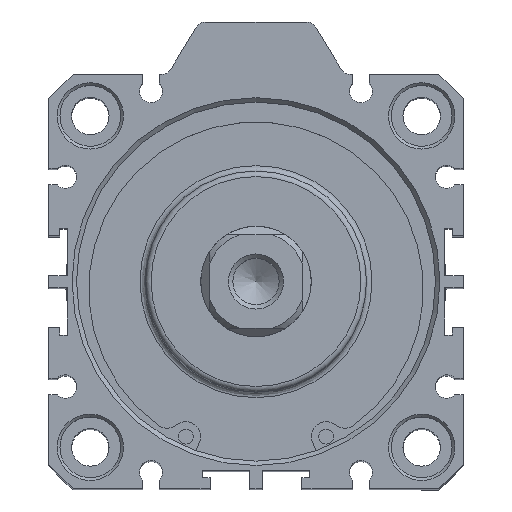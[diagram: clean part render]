
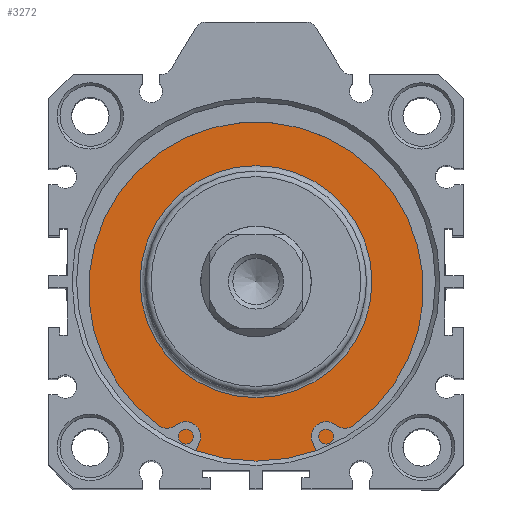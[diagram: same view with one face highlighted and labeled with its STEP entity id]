
A CAD part, top view. The second image highlights one B-rep face of the part: STEP entity #3272.
In plain terms, the highlighted planar face has unit normal (0, 0, 1).
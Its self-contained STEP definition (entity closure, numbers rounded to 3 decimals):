
#3221=CARTESIAN_POINT('',(0.359,19.684,127.3));
#3222=VERTEX_POINT('',#3221);
#3223=CARTESIAN_POINT('',(0.359,-1.316,127.3));
#3224=DIRECTION('',(0.0,0.0,1.0));
#3225=DIRECTION('',(0.0,-1.0,0.0));
#3226=AXIS2_PLACEMENT_3D('',#3223,#3224,#3225);
#3227=CIRCLE('',#3226,21.);
#3228=EDGE_CURVE('',#3222,#3222,#3227,.T.);
#3253=CARTESIAN_POINT('',(0.359,24.934,127.3));
#3254=DIRECTION('',(0.0,0.0,1.0));
#3255=DIRECTION('',(1.0,0.0,0.0));
#3256=AXIS2_PLACEMENT_3D('',#3253,#3254,#3255);
#3257=PLANE('',#3256);
#3258=CARTESIAN_POINT('',(0.359,31.184,127.3));
#3259=VERTEX_POINT('',#3258);
#3260=CARTESIAN_POINT('',(0.359,-1.316,127.3));
#3261=DIRECTION('',(0.0,0.0,-1.0));
#3262=DIRECTION('',(0.0,1.0,0.0));
#3263=AXIS2_PLACEMENT_3D('',#3260,#3261,#3262);
#3264=CIRCLE('',#3263,32.5);
#3265=EDGE_CURVE('',#3259,#3259,#3264,.T.);
#3266=ORIENTED_EDGE('',*,*,#3265,.F.);
#3267=EDGE_LOOP('',(#3266));
#3268=FACE_OUTER_BOUND('',#3267,.T.);
#3269=ORIENTED_EDGE('',*,*,#3228,.F.);
#3270=EDGE_LOOP('',(#3269));
#3271=FACE_BOUND('',#3270,.T.);
#3272=ADVANCED_FACE('',(#3268,#3271),#3257,.T.);
